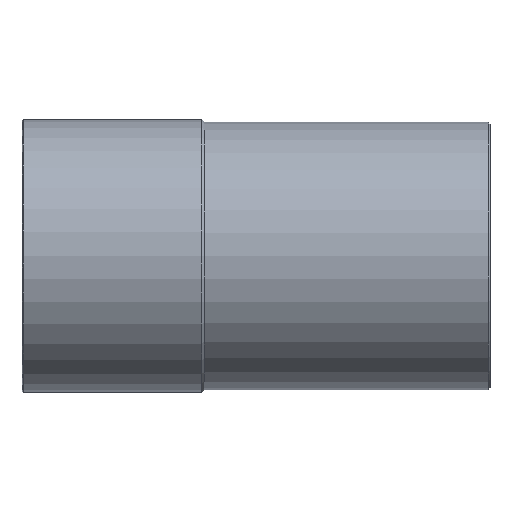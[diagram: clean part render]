
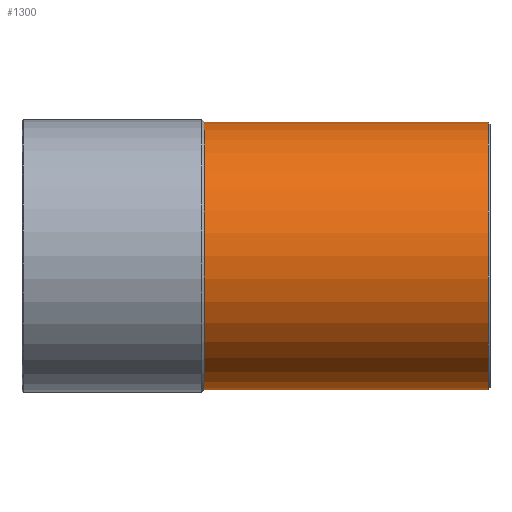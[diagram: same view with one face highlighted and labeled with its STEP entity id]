
A CAD part, top view. The second image highlights one B-rep face of the part: STEP entity #1300.
In plain terms, the highlighted cylindrical face has radius 54 mm (diameter 108 mm), a partial arc.
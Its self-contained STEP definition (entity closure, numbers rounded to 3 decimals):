
#890=CARTESIAN_POINT('',(-142.799,64.024,0.));
#900=DIRECTION('',(1.,0.,0.));
#910=DIRECTION('',(0.,-1.,0.));
#920=AXIS2_PLACEMENT_3D('',#890,#900,#910);
#930=CYLINDRICAL_SURFACE('',#920,54.);
#940=CARTESIAN_POINT('',(-142.799,118.024,
0.));
#950=DIRECTION('',(1.,0.,0.));
#960=VECTOR('',#950,1.);
#970=LINE('',#940,#960);
#980=CARTESIAN_POINT('',(-209.449,118.024,
0.));
#990=VERTEX_POINT('',#980);
#1000=CARTESIAN_POINT('',(-95.049,118.024,
0.));
#1010=VERTEX_POINT('',#1000);
#1020=EDGE_CURVE('',#990,#1010,#970,.T.);
#1030=ORIENTED_EDGE('',*,*,#1020,.F.);
#1040=CARTESIAN_POINT('',(-95.049,64.024,0.));
#1050=DIRECTION('',(1.,0.,0.));
#1060=DIRECTION('',(0.,-1.,0.));
#1070=AXIS2_PLACEMENT_3D('',#1040,#1050,#1060);
#1080=CIRCLE('',#1070,54.);
#1090=CARTESIAN_POINT('',(-95.049,10.024,0.));
#1100=VERTEX_POINT('',#1090);
#1110=EDGE_CURVE('',#1010,#1100,#1080,.T.);
#1120=ORIENTED_EDGE('',*,*,#1110,.F.);
#1130=CARTESIAN_POINT('',(-142.799,10.024,0.));
#1140=DIRECTION('',(1.,0.,0.));
#1150=VECTOR('',#1140,1.);
#1160=LINE('',#1130,#1150);
#1170=CARTESIAN_POINT('',(-209.449,10.024,0.));
#1180=VERTEX_POINT('',#1170);
#1190=EDGE_CURVE('',#1180,#1100,#1160,.T.);
#1200=ORIENTED_EDGE('',*,*,#1190,.T.);
#1210=CARTESIAN_POINT('',(-209.449,64.024,0.));
#1220=DIRECTION('',(-1.,0.,0.));
#1230=DIRECTION('',(0.,1.,0.));
#1240=AXIS2_PLACEMENT_3D('',#1210,#1220,#1230);
#1250=CIRCLE('',#1240,54.);
#1260=EDGE_CURVE('',#1180,#990,#1250,.T.);
#1270=ORIENTED_EDGE('',*,*,#1260,.F.);
#1280=EDGE_LOOP('',(#1270,#1200,#1120,#1030));
#1290=FACE_OUTER_BOUND('',#1280,.T.);
#1300=ADVANCED_FACE('',(#1290),#930,.T.);
